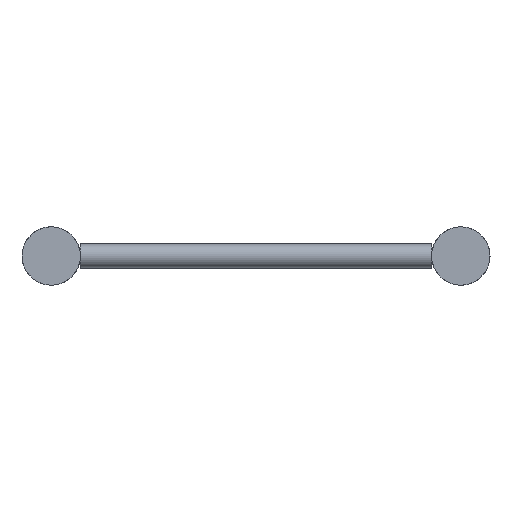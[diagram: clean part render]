
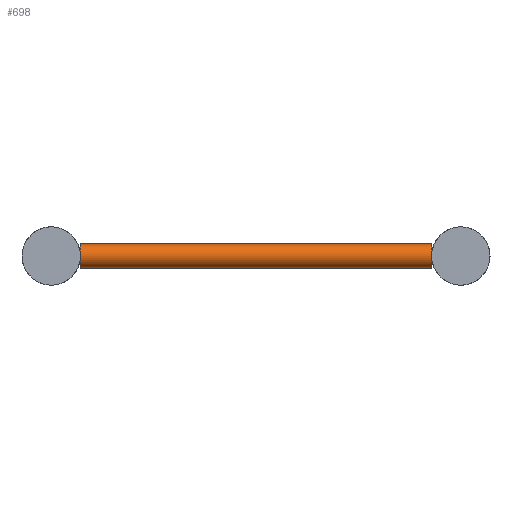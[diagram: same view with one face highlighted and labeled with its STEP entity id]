
A CAD part, left-side view. The second image highlights one B-rep face of the part: STEP entity #698.
In plain terms, the highlighted cylindrical face has radius 10 mm (diameter 20 mm), a full revolution.
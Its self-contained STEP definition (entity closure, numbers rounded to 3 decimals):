
#53=CIRCLE('',#776,10.);
#54=CIRCLE('',#778,10.);
#55=CIRCLE('',#780,10.);
#56=CIRCLE('',#782,10.);
#92=FACE_BOUND('',#240,.T.);
#136=CYLINDRICAL_SURFACE('',#781,10.);
#173=FACE_OUTER_BOUND('',#239,.T.);
#239=EDGE_LOOP('',(#484,#485));
#240=EDGE_LOOP('',(#486,#487));
#336=VERTEX_POINT('',#1105);
#337=VERTEX_POINT('',#1106);
#338=VERTEX_POINT('',#1110);
#339=VERTEX_POINT('',#1111);
#399=EDGE_CURVE('',#337,#336,#53,.T.);
#401=EDGE_CURVE('',#339,#338,#54,.T.);
#402=EDGE_CURVE('',#336,#337,#55,.T.);
#403=EDGE_CURVE('',#338,#339,#56,.T.);
#484=ORIENTED_EDGE('',*,*,#399,.T.);
#485=ORIENTED_EDGE('',*,*,#402,.T.);
#486=ORIENTED_EDGE('',*,*,#401,.T.);
#487=ORIENTED_EDGE('',*,*,#403,.T.);
#698=ADVANCED_FACE('',(#173,#92),#136,.T.);
#776=AXIS2_PLACEMENT_3D('',#1108,#916,#917);
#778=AXIS2_PLACEMENT_3D('',#1113,#921,#922);
#780=AXIS2_PLACEMENT_3D('',#1115,#925,#926);
#781=AXIS2_PLACEMENT_3D('',#1116,#927,#928);
#782=AXIS2_PLACEMENT_3D('',#1117,#929,#930);
#916=DIRECTION('center_axis',(0.,1.,0.));
#917=DIRECTION('ref_axis',(-1.,0.,0.));
#921=DIRECTION('center_axis',(0.,-1.,0.));
#922=DIRECTION('ref_axis',(-1.,0.,0.));
#925=DIRECTION('center_axis',(0.,1.,0.));
#926=DIRECTION('ref_axis',(-1.,0.,0.));
#927=DIRECTION('center_axis',(0.,1.,0.));
#928=DIRECTION('ref_axis',(-1.,0.,0.));
#929=DIRECTION('center_axis',(0.,-1.,0.));
#930=DIRECTION('ref_axis',(-1.,0.,0.));
#1105=CARTESIAN_POINT('',(50.,24.15,0.));
#1106=CARTESIAN_POINT('',(70.,24.15,0.));
#1108=CARTESIAN_POINT('Origin',(60.,24.15,0.));
#1110=CARTESIAN_POINT('',(50.,314.85,0.));
#1111=CARTESIAN_POINT('',(70.,314.85,0.));
#1113=CARTESIAN_POINT('Origin',(60.,314.85,0.));
#1115=CARTESIAN_POINT('Origin',(60.,24.15,0.));
#1116=CARTESIAN_POINT('Origin',(60.,169.5,0.));
#1117=CARTESIAN_POINT('Origin',(60.,314.85,0.));
